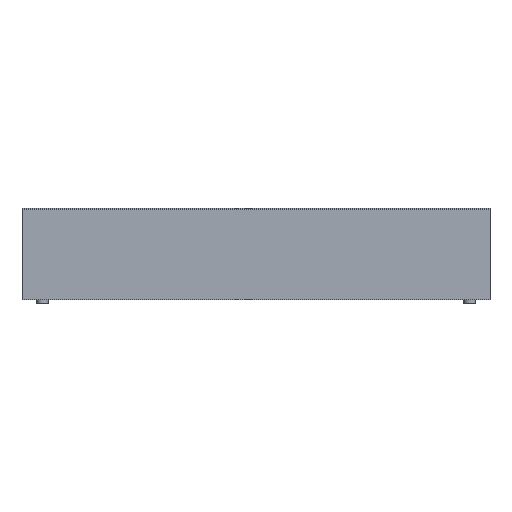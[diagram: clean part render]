
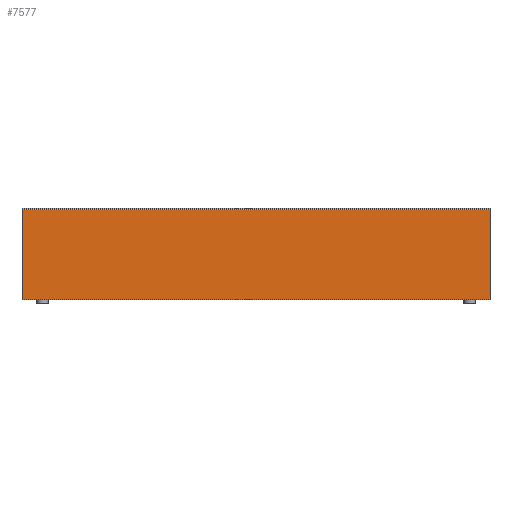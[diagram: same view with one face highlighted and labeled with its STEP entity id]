
A CAD part, left-side view. The second image highlights one B-rep face of the part: STEP entity #7577.
In plain terms, the highlighted planar face has unit normal (-1, 0, 0).
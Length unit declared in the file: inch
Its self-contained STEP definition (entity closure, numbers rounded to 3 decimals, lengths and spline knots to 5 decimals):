
#1073 = EDGE_CURVE ( 'NONE', #1481, #20286, #18717, .T. ) ;
#1481 = VERTEX_POINT ( 'NONE', #27770 ) ;
#2026 = ORIENTED_EDGE ( 'NONE', *, *, #2134, .T. ) ;
#2134 = EDGE_CURVE ( 'NONE', #11068, #20286, #27396, .T. ) ;
#2280 = CARTESIAN_POINT ( 'NONE',  ( 0.89307, 4.48121, 3.91648 ) ) ;
#4400 = DIRECTION ( 'NONE',  ( 0., 1., 0. ) ) ;
#4533 = VECTOR ( 'NONE', #14440, 39.37008 ) ;
#4644 = LINE ( 'NONE', #15831, #5209 ) ;
#4782 = CARTESIAN_POINT ( 'NONE',  ( 0.89307, 4.48121, 3.03148 ) ) ;
#5209 = VECTOR ( 'NONE', #26144, 39.37008 ) ;
#6269 = VERTEX_POINT ( 'NONE', #9183 ) ;
#7577 = ADVANCED_FACE ( 'NONE', ( #10643 ), #27878, .F. ) ;
#8091 = CARTESIAN_POINT ( 'NONE',  ( 0.89307, 4.48121, 3.93148 ) ) ;
#9183 = CARTESIAN_POINT ( 'NONE',  ( 0.89307, 4.48121, 3.91648 ) ) ;
#9221 = EDGE_CURVE ( 'NONE', #1481, #6269, #21462, .T. ) ;
#9870 = EDGE_LOOP ( 'NONE', ( #21364, #11526, #17959, #2026 ) ) ;
#10643 = FACE_OUTER_BOUND ( 'NONE', #9870, .T. ) ;
#10875 = VECTOR ( 'NONE', #14679, 39.37008 ) ;
#11068 = VERTEX_POINT ( 'NONE', #4782 ) ;
#11526 = ORIENTED_EDGE ( 'NONE', *, *, #9221, .T. ) ;
#14440 = DIRECTION ( 'NONE',  ( 0., 0., -1. ) ) ;
#14679 = DIRECTION ( 'NONE',  ( 0., -1., 0. ) ) ;
#15831 = CARTESIAN_POINT ( 'NONE',  ( 0.89307, 4.48121, 3.93148 ) ) ;
#17907 = VECTOR ( 'NONE', #4400, 39.37008 ) ;
#17959 = ORIENTED_EDGE ( 'NONE', *, *, #23524, .T. ) ;
#18639 = CARTESIAN_POINT ( 'NONE',  ( 0.89307, -0.11879, 3.03148 ) ) ;
#18717 = LINE ( 'NONE', #27310, #4533 ) ;
#18998 = DIRECTION ( 'NONE',  ( 1., 0., 0. ) ) ;
#20286 = VERTEX_POINT ( 'NONE', #18639 ) ;
#21364 = ORIENTED_EDGE ( 'NONE', *, *, #1073, .F. ) ;
#21462 = LINE ( 'NONE', #2280, #17907 ) ;
#23270 = DIRECTION ( 'NONE',  ( 0., 1., 0. ) ) ;
#23524 = EDGE_CURVE ( 'NONE', #6269, #11068, #4644, .T. ) ;
#26144 = DIRECTION ( 'NONE',  ( 0., 0., -1. ) ) ;
#26758 = AXIS2_PLACEMENT_3D ( 'NONE', #8091, #18998, #23270 ) ;
#27310 = CARTESIAN_POINT ( 'NONE',  ( 0.89307, -0.11879, 3.93148 ) ) ;
#27396 = LINE ( 'NONE', #27661, #10875 ) ;
#27661 = CARTESIAN_POINT ( 'NONE',  ( 0.89307, 4.48121, 3.03148 ) ) ;
#27770 = CARTESIAN_POINT ( 'NONE',  ( 0.89307, -0.11879, 3.91648 ) ) ;
#27878 = PLANE ( 'NONE',  #26758 ) ;
